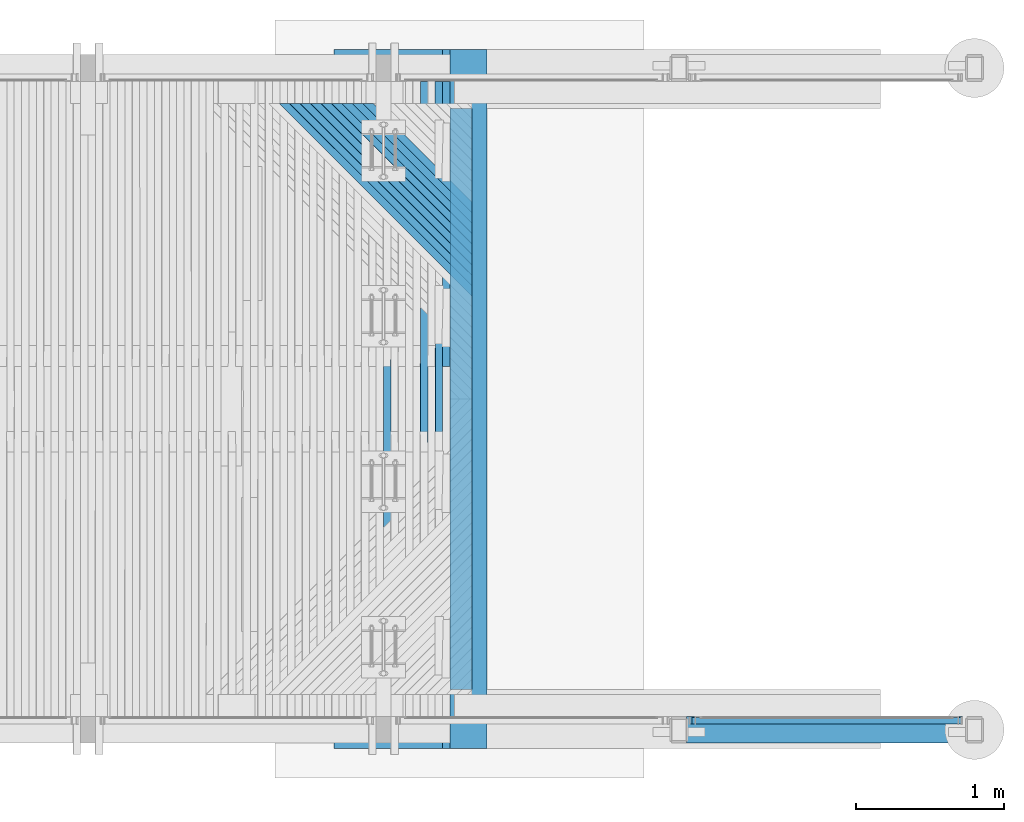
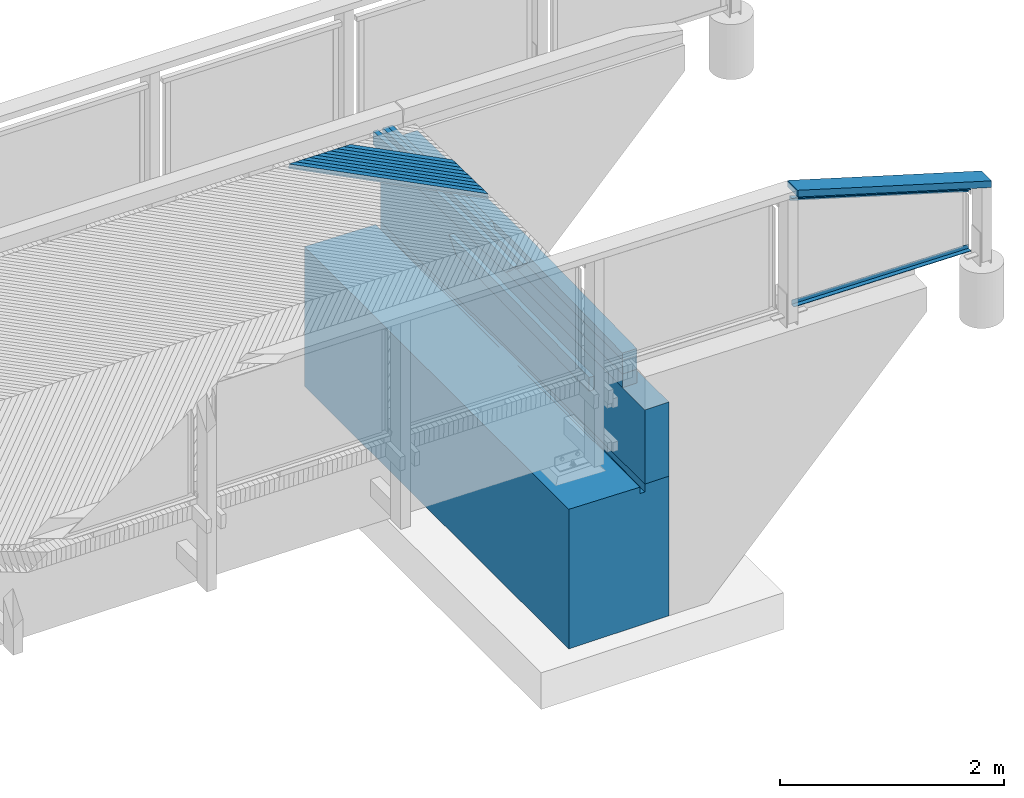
# One storey, part 47 of 65: 21 beams.
"""IFC2X3 building model written with IfcOpenShell, lengths in millimetres."""

import ifcopenshell
import ifcopenshell.guid

model = None  # the IFC model being written
_history = None  # IfcOwnerHistory: only IFC2X3 demands one
_inside = {}  # id of a spatial element -> (the spatial element, [elements in it])
_under = {}  # id of a project, library or spatial element -> (it, [spatial elements below it])
_declared = {}  # id of a project -> (the project, [libraries it declares])
_typed = {}  # id of a type object -> (the type object, [elements of that type])
_made_of = {}  # id of a material, layer set ... -> (it, [elements and type objects made of it])


def new_model(schema):
    """Start an empty IFC model of exactly this schema.

    Asked for "IFC4X3", IfcOpenShell would pick the latest addendum, in which some entities
    have other attributes; the version numbers below select the first issue.
    IFC2X3 requires an IfcOwnerHistory on every rooted entity: one is made here for all.
    """
    global model, _history
    if schema == "IFC4X3":
        model = ifcopenshell.file(schema_version=(4, 3, 0, 0))
    else:
        model = ifcopenshell.file(schema=schema)
    _inside.clear()
    _under.clear()
    _declared.clear()
    _typed.clear()
    _made_of.clear()
    _history = None
    if model.schema == "IFC2X3":
        org = make("IfcOrganization", Name="unknown")
        user = make(
            "IfcPersonAndOrganization",
            ThePerson=make("IfcPerson", FamilyName="unknown"),
            TheOrganization=org,
        )
        app = make(
            "IfcApplication",
            ApplicationDeveloper=org,
            Version="unknown",
            ApplicationFullName="unknown",
            ApplicationIdentifier="unknown",
        )
        _history = make(
            "IfcOwnerHistory",
            OwningUser=user,
            OwningApplication=app,
            ChangeAction="ADDED",
            CreationDate=0,
        )
    return model


def make(cls, **values):
    """One entity of the class cls with the attributes given. An attribute that is None is left unset."""
    return model.create_entity(
        cls, **{name: value for name, value in values.items() if value is not None}
    )


def rooted(cls, **values):
    """An entity with a GlobalId (a new one), such as an element, a storey or a relation."""
    return make(cls, GlobalId=ifcopenshell.guid.new(), OwnerHistory=_history, **values)


def si_unit(unit_type, name, prefix=None):
    """IfcSIUnit, for example si_unit("LENGTHUNIT", "METRE", prefix="MILLI")."""
    return make("IfcSIUnit", UnitType=unit_type, Prefix=prefix, Name=name)


def assignment(units):
    """IfcUnitAssignment: the units of a project."""
    return None if units is None else make("IfcUnitAssignment", Units=units)


def point(xyz):
    """IfcCartesianPoint."""
    return None if xyz is None else make("IfcCartesianPoint", Coordinates=xyz)


def direction(xyz):
    """IfcDirection."""
    return None if xyz is None else make("IfcDirection", DirectionRatios=xyz)


def frame(location, z_axis=None, x_axis=None):
    """IfcAxis2Placement3D, a coordinate frame: its origin and axes. An axis left out is left unset."""
    return make(
        "IfcAxis2Placement3D",
        Location=point(location),
        Axis=direction(z_axis),
        RefDirection=direction(x_axis),
    )


def origin_with_axes():
    """The frame at (0, 0, 0) with the z axis (0, 0, 1) and the x axis (1, 0, 0) written out."""
    return frame((0.0, 0.0, 0.0), z_axis=(0.0, 0.0, 1.0), x_axis=(1.0, 0.0, 0.0))


def place(relative_to, where):
    """IfcLocalPlacement: puts the frame where relative to a parent placement (None: the world)."""
    return make(
        "IfcLocalPlacement", PlacementRelTo=relative_to, RelativePlacement=where
    )


def context(
    kind, dimensions, precision=None, world=None, true_north=None, identifier=None
):
    """IfcGeometricRepresentationContext, for example the 3D "Model" context."""
    return make(
        "IfcGeometricRepresentationContext",
        ContextIdentifier=identifier,
        ContextType=kind,
        CoordinateSpaceDimension=dimensions,
        Precision=precision,
        WorldCoordinateSystem=world,
        TrueNorth=true_north,
    )


def subcontext(parent, identifier, kind, view, scale=None):
    """IfcGeometricRepresentationSubContext, for example "Body" below "Model"."""
    return make(
        "IfcGeometricRepresentationSubContext",
        ContextIdentifier=identifier,
        ContextType=kind,
        ParentContext=parent,
        TargetScale=scale,
        TargetView=view,
    )


def project(units=None, contexts=None):
    """IfcProject with its units and contexts."""
    return rooted(
        "IfcProject",
        Name="project",
        RepresentationContexts=contexts,
        UnitsInContext=assignment(units),
    )


def spatial(cls, under=None, at=None, **own):
    """A site, building, storey or space (cls), placed at a placement, below another one or the project."""
    s = rooted(cls, ObjectPlacement=at, **own)
    if under is not None:
        _under.setdefault(under.id(), (under, []))[1].append(s)
    return s


def faces_of(points, faces, orient=None, outer=None):
    """IfcFace entities. A face is a list of loops; a loop is a list of indices into points, from 0.

    orient and outer hold one flag for each loop. By default every Orientation is true, the
    first loop of a face is its IfcFaceOuterBound and the others are IfcFaceBound.
    """
    made = []
    for i, loops in enumerate(faces):
        bounds = []
        for j, loop in enumerate(loops):
            is_outer = j == 0 if outer is None else outer[i][j]
            bounds.append(
                make(
                    "IfcFaceOuterBound" if is_outer else "IfcFaceBound",
                    Bound=make("IfcPolyLoop", Polygon=[points[k] for k in loop]),
                    Orientation=True if orient is None else orient[i][j],
                )
            )
        made.append(make("IfcFace", Bounds=bounds))
    return made


def faceted_brep(points, faces, orient=None, outer=None, voids=None):
    """IfcFacetedBrep: a solid bounded by flat faces; with voids (closed shells), ...WithVoids."""
    shared = [point(p) for p in points]
    hull = make("IfcClosedShell", CfsFaces=faces_of(shared, faces, orient, outer))
    if voids is None:
        return make("IfcFacetedBrep", Outer=hull)
    return make(
        "IfcFacetedBrepWithVoids",
        Outer=hull,
        Voids=[
            make(cls, CfsFaces=faces_of(shared, fs, o, b)) for cls, fs, o, b in voids
        ],
    )


def shape(context_of_items, identifier, shape_type, items):
    """IfcShapeRepresentation: the items that make up one representation, for example the "Body"."""
    return make(
        "IfcShapeRepresentation",
        ContextOfItems=context_of_items,
        RepresentationIdentifier=identifier,
        RepresentationType=shape_type,
        Items=items,
    )


def material(Name=None, Category=None):
    """IfcMaterial."""
    return make("IfcMaterial", Name=Name, Category=Category)


def made_of(thing, what):
    """Note that an element or type object is made of a material, layer set ...; save() writes the relation."""
    if what is not None:
        _made_of.setdefault(what.id(), (what, []))[1].append(thing)
    return thing


def type_object(cls, material=None, **own):
    """A type object (cls), such as IfcWallType, which elements share."""
    return made_of(rooted(cls, **own), material)


def element(
    cls,
    number,
    at=None,
    inside=None,
    cuts=None,
    type_object=None,
    material=None,
    context=None,
    identifier="Body",
    shape_type=None,
    held_by="IfcProductDefinitionShape",
    body=None,
    shapes=None,
    **own,
):
    """One element of the class cls, such as IfcWall. Its Tag is "e" and its number.

    at: its placement. inside: the storey or other place that contains it. cuts: it is an
    opening in that element (IfcRelVoidsElement). A single representation is given by context,
    identifier, shape_type and body (its items); several are given by shapes. held_by: the class
    of the entity that holds the representations. save() writes the other relations.
    """
    e = rooted(cls, Tag="e%d" % number, ObjectPlacement=at, **own)
    if body is not None:
        shapes = [shape(context, identifier, shape_type, body)]
    if shapes is not None:
        e.Representation = make(held_by, Representations=shapes)
    if inside is not None:
        _inside.setdefault(inside.id(), (inside, []))[1].append(e)
    if cuts is not None:
        rooted(
            "IfcRelVoidsElement", RelatingBuildingElement=cuts, RelatedOpeningElement=e
        )
    if type_object is not None:
        _typed.setdefault(type_object.id(), (type_object, []))[1].append(e)
    return made_of(e, material)


def aggregate(whole, parts):
    """IfcRelAggregates: a whole, such as a stair, and the parts it consists of."""
    return rooted("IfcRelAggregates", RelatingObject=whole, RelatedObjects=parts)


def save(model, path):
    """Write the relations noted so far, then the file.

    IfcRelAggregates (storeys below a building ...), IfcRelContainedInSpatialStructure (elements
    in a storey), IfcRelDefinesByType, IfcRelAssociatesMaterial and IfcRelDeclares: one each for
    every whole, place, type object, material and project.
    """
    for whole, parts in _under.values():
        aggregate(whole, parts)
    for where, things in _inside.values():
        rooted(
            "IfcRelContainedInSpatialStructure",
            RelatedElements=things,
            RelatingStructure=where,
        )
    for kind, things in _typed.values():
        rooted("IfcRelDefinesByType", RelatedObjects=things, RelatingType=kind)
    for what, things in _made_of.values():
        rooted("IfcRelAssociatesMaterial", RelatedObjects=things, RelatingMaterial=what)
    for by, libraries in _declared.values():
        rooted("IfcRelDeclares", RelatingContext=by, RelatedDefinitions=libraries)
    model.write(path)


model = new_model("IFC2X3")

# Units and contexts
model_context = context("Model", 3, precision=1e-05, world=origin_with_axes())
body_context = subcontext(model_context, "Body", "Model", "MODEL_VIEW")
ifc_project = project(units=[si_unit("LENGTHUNIT", "METRE", prefix="MILLI"), si_unit("AREAUNIT", "SQUARE_METRE"), si_unit("VOLUMEUNIT", "CUBIC_METRE"), si_unit("MASSUNIT", "GRAM", prefix="KILO"), si_unit("TIMEUNIT", "SECOND"), si_unit("PLANEANGLEUNIT", "RADIAN"), si_unit("SOLIDANGLEUNIT", "STERADIAN"), si_unit("THERMODYNAMICTEMPERATUREUNIT", "DEGREE_CELSIUS"), si_unit("LUMINOUSINTENSITYUNIT", "LUMEN")], contexts=[model_context])

# Site, building, storey
site_placement = place(None, origin_with_axes())
site = spatial("IfcSite", under=ifc_project, at=site_placement, Name="Undefined", CompositionType="ELEMENT")
building_placement = place(site_placement, origin_with_axes())
building = spatial("IfcBuilding", under=site, at=building_placement, Name="Undefined", CompositionType="ELEMENT")
storey_placement = place(building_placement, origin_with_axes())
storey = spatial("IfcBuildingStorey", under=building, at=storey_placement, Name="Undefined", CompositionType="ELEMENT", Elevation=0.0)

# Beams
ifc_material_1 = material(Name="TIMBER/Timber_Undefined")
beam_type_1 = type_object("IfcBeamType", Name="150*150", PredefinedType="NOTDEFINED")
beam_1_placement = place(storey_placement, frame((16525.0, 20399.9992755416, 3109.00000000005), z_axis=(1.0, 0.0, 0.0), x_axis=(0.0, 1.0, 0.0)))
element("IfcBeam", 1, at=beam_1_placement, inside=storey, type_object=beam_type_1, material=ifc_material_1, Name="BEAM", ObjectType="150*150", context=body_context, shape_type="Brep", body=[
    faceted_brep([(0.0, -75.0000000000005, 75.0), (0.0, -75.0000000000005, -75.0), (3930.0, -75.0, -75.0), (3930.0, -75.0, 75.0), (3930.0, 3.17681141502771, -75.0), (3930.0, 0.558028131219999, 75.0), (1965.00070282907, 39.8541855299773, 75.0), (0.0, 0.558000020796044, 75.0), (0.0, 3.1767833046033, -75.0), (1965.00070282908, 42.4729688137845, -75.0)], [[[0, 1, 2, 3]], [[3, 2, 4, 5]], [[0, 3, 5, 6, 7]], [[1, 0, 7, 8]], [[4, 2, 1, 8, 9]], [[5, 4, 9, 6]], [[8, 7, 6, 9]]]),
])
for number, where, z_axis, x_axis, name in (
    (2, (16525.0, 20399.9992755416, 2959.00000000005), (1.0, 0.0, 0.0), (0.0, 1.0, 0.0), "BEAM"),
    (3, (16525.0, 20399.9992755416, 2809.00000000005), (1.0, 0.0, 0.0), (0.0, 1.0, 0.0), "BEAM"),
):
    element("IfcBeam", number, at=place(storey_placement, frame(where, z_axis=z_axis, x_axis=x_axis)), inside=storey, type_object=beam_type_1, material=ifc_material_1, Name=name, ObjectType="150*150", context=body_context, shape_type="Brep", body=[
        faceted_brep([(3.63797880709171e-12, 75.0000000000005, -75.0), (3.63797880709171e-12, 75.0000000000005, 75.0), (3930.0, 75.0, 75.0), (3930.0, 75.0, -75.0), (0.0, -75.0000000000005, 75.0), (3930.0, -75.0, 75.0), (0.0, -75.0000000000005, -75.0), (3930.0, -75.0, -75.0)], [[[0, 1, 2, 3]], [[1, 4, 5, 2]], [[4, 6, 7, 5]], [[6, 0, 3, 7]], [[5, 7, 3, 2]], [[6, 4, 1, 0]]]),
    ])
ifc_material_2 = material(Name="CONCRETE/Concrete_Undefined")
beam_type_2 = type_object("IfcBeamType", Name="810*250", PredefinedType="NOTDEFINED")
beam_2_placement = place(storey_placement, frame((16575.0, 20000.0, 2329.0), z_axis=(0.0, 0.0, 1.0), x_axis=(0.0, 1.0, 0.0)))
element("IfcBeam", 4, at=beam_2_placement, inside=storey, type_object=beam_type_2, material=ifc_material_2, Name="OTSAMUURI", ObjectType="810*250", context=body_context, shape_type="Brep", body=[
    faceted_brep([(0.0, 125.0, -405.0), (0.0, 125.0, 405.0), (4730.0, 125.0, 405.0), (4730.0, 125.0, -405.0), (0.0, -125.0, 405.0), (4730.0, -125.0, 405.0), (0.0, -125.0, -405.0), (4730.0, -125.0, -405.0)], [[[0, 1, 2, 3]], [[1, 4, 5, 2]], [[4, 6, 7, 5]], [[6, 0, 3, 7]], [[5, 7, 3, 2]], [[6, 4, 1, 0]]]),
])
beam_type_3 = type_object("IfcBeamType", Name="1524*1035", PredefinedType="NOTDEFINED")
beam_3_placement = place(storey_placement, frame((16182.5, 20000.0, 1162.0), z_axis=(0.0, 0.0, 1.0), x_axis=(0.0, 1.0, 0.0)))
element("IfcBeam", 5, at=beam_3_placement, inside=storey, type_object=beam_type_3, material=ifc_material_2, Name="LAAKERIPALKKI", ObjectType="1524*1035", context=body_context, shape_type="Brep", body=[
    faceted_brep([(4730.0, -217.5, 747.0), (2367.30822656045, -217.5, 747.0), (2367.55223388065, -217.5, 737.442575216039), (4730.0, -217.5, 676.997414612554), (2367.55223388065, -267.5, 737.442575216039), (4730.0, -267.5, 676.997414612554), (4730.0, -267.5, 762.0), (2366.92526672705, -267.5, 762.0), (4730.0, 517.5, -762.0), (0.0, 517.5, -762.0), (0.0, 517.5, 762.0), (4730.0, 517.5, 762.0), (0.0, -517.5, -762.0), (4730.0, -517.5, -762.0), (0.0, -517.5, 762.0), (4730.0, -517.5, 762.0), (2363.07473327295, -267.5, 762.0), (0.0, -267.5, 762.0), (0.0, -267.5, 676.997414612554), (0.0, -217.5, 676.997414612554), (0.0, -217.5, 747.0), (2362.45109111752, -267.5, 737.312339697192), (2362.45109111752, -217.5, 737.312339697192), (2362.69177343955, -217.5, 747.0)], [[[0, 1, 2, 3]], [[3, 2, 4, 5]], [[6, 5, 4, 7]], [[8, 9, 10, 11]], [[12, 9, 8, 13]], [[14, 12, 13, 15]], [[16, 17, 14, 15, 6, 7]], [[9, 12, 14, 17, 18, 19, 20, 10]], [[16, 7, 4, 21, 18, 17]], [[18, 21, 4, 2, 22, 19]], [[20, 19, 22, 2, 1, 23]], [[11, 10, 20, 23, 1, 0]], [[15, 13, 8, 11, 0, 3, 5, 6]]]),
])
ifc_material_3 = material(Name="STEEL/S235JR")
beam_type_4 = type_object("IfcBeamType", Name="L50*5", PredefinedType="NOTDEFINED")
beam_4_placement = place(storey_placement, frame((19932.3725338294, 20190.0099999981, 3179.70755372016), z_axis=(0.0, -1.0, 0.0), x_axis=(-0.999888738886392, 0.0, 0.0149167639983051)))
element("IfcBeam", 6, at=beam_4_placement, inside=storey, type_object=beam_type_4, material=ifc_material_3, Name="BEAM", ObjectType="L50*5", context=body_context, shape_type="Brep", body=[
    faceted_brep([(19.5026467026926, 24.9999999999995, -25.0), (19.5026467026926, 24.9999999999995, 25.0), (1844.70266873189, 24.9999999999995, 25.0), (1844.70266873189, 24.9999999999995, -25.0), (19.5772388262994, 20.0, 25.0), (1844.77726085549, 19.9999999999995, 25.0), (19.5772388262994, 20.0, -20.0), (1844.77726085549, 19.9999999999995, -20.0), (20.2485678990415, -25.0000000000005, -20.0), (1845.44858992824, -25.0, -20.0), (20.2485678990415, -25.0000000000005, -25.0), (1845.44858992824, -25.0, -25.0)], [[[0, 1, 2, 3]], [[1, 4, 5, 2]], [[4, 6, 7, 5]], [[6, 8, 9, 7]], [[8, 10, 11, 9]], [[10, 0, 3, 11]], [[5, 7, 9, 11, 3, 2]], [[10, 8, 6, 4, 1, 0]]]),
])
beam_5_placement = place(storey_placement, frame((18073.0165410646, 20190.0100000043, 4349.67321763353), z_axis=(0.0, -1.0, 0.0), x_axis=(0.958216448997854, 0.0, -0.286044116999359)))
element("IfcBeam", 7, at=beam_5_placement, inside=storey, type_object=beam_type_4, material=ifc_material_3, Name="BEAM", ObjectType="L50*5", context=body_context, shape_type="Brep", body=[
    faceted_brep([(-13.2235825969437, 25.0, -25.0), (-13.2235825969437, 25.0, 25.0), (1917.44646969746, 25.0, 25.0), (1917.44646969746, 25.0, -25.0), (-11.7309964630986, 20.0, 25.0), (1918.9390558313, 19.9999999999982, 25.0), (-11.7309964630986, 20.0, -20.0), (1918.9390558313, 19.9999999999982, -20.0), (1.70227874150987, -25.0, -20.0), (1932.37233103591, -25.0000000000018, -20.0), (1.70227874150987, -25.0, -25.0), (1932.37233103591, -25.0000000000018, -25.0)], [[[0, 1, 2, 3]], [[1, 4, 5, 2]], [[4, 6, 7, 5]], [[6, 8, 9, 7]], [[8, 10, 11, 9]], [[10, 0, 3, 11]], [[5, 7, 9, 11, 3, 2]], [[10, 8, 6, 4, 1, 0]]]),
])
beam_type_5 = type_object("IfcBeamType", Name="180*70", PredefinedType="NOTDEFINED")
beam_6_placement = place(storey_placement, frame((18039.9342024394, 20125.0099640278, 4517.05500293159), z_axis=(0.0, -1.0, 0.0), x_axis=(0.958243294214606, 0.0, -0.285954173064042)))
element("IfcBeam", 8, at=beam_6_placement, inside=storey, type_object=beam_type_5, material=ifc_material_1, Name="YLÄJOHDE", ObjectType="180*70", context=body_context, shape_type="Brep", body=[
    faceted_brep([(41.6879268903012, -35.0699417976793, -90.0), (41.6879268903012, -35.0699417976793, 90.0), (20.9594530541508, -35.0351891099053, 90.0), (20.9594530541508, -35.0351891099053, -90.0), (41.8028913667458, 34.9299637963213, 90.0), (0.0598773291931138, 34.9999487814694, 90.0), (41.8028913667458, 34.9299637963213, -90.0), (0.0598773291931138, 34.9999487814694, -90.0), (83.5459100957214, 34.8628353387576, -90.0), (83.4357358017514, -35.1370779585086, -90.0), (83.4357358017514, -35.1370779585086, 90.0), (83.5459100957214, 34.8628353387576, 90.0), (125.288933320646, 34.7985634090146, 90.0), (125.288933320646, 34.7985634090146, -90.0), (125.183549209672, -35.2013572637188, -90.0), (125.183549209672, -35.2013572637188, 90.0), (166.931366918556, -35.2627797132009, 90.0), (167.031960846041, 34.7371480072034, 90.0), (167.031960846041, 34.7371480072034, -90.0), (166.931366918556, -35.2627797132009, -90.0), (208.679188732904, -35.3213453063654, -90.0), (208.679188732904, -35.3213453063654, 90.0), (208.774992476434, 34.6785891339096, 90.0), (208.774992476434, 34.6785891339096, -90.0), (250.518028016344, 34.6228867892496, -90.0), (250.42701445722, -35.3770540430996, -90.0), (250.42701445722, -35.3770540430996, 90.0), (250.518028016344, 34.6228867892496, 90.0), (292.261067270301, 34.5700409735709, 90.0), (292.261067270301, 34.5700409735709, -90.0), (292.174843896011, -35.4299059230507, -90.0), (292.174843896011, -35.4299059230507, 90.0), (333.922676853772, -35.4799009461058, 90.0), (334.004110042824, 34.52005168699, 90.0), (334.004110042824, 34.52005168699, -90.0), (333.922676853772, -35.4799009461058, -90.0), (375.670513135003, -35.5270391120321, -90.0), (375.670513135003, -35.5270391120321, 90.0), (375.747156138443, 34.4729189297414, 90.0), (375.747156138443, 34.4729189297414, -90.0), (417.490205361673, 34.4286427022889, -90.0), (417.418352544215, -35.5713204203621, -90.0), (417.418352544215, -35.5713204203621, 90.0), (417.490205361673, 34.4286427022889, 90.0), (459.233257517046, 34.3872230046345, 90.0), (459.233257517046, 34.3872230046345, -90.0), (459.166194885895, -35.6127448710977, -90.0), (459.166194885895, -35.6127448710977, 90.0), (500.914039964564, -35.6513124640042, 90.0), (500.97631240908, 34.3486598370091, 90.0), (500.97631240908, 34.3486598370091, -90.0), (500.914039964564, -35.6513124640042, -90.0), (542.661887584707, -35.6870231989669, -90.0), (542.661887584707, -35.6870231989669, 90.0), (542.719369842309, 34.3129531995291, 90.0), (542.719369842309, 34.3129531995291, -90.0), (584.462429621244, 34.2801030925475, -90.0), (584.40973755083, -35.7198770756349, -90.0), (584.40973755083, -35.7198770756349, 90.0), (584.462429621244, 34.2801030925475, 90.0), (626.205491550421, 34.2501095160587, 90.0), (626.205491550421, 34.2501095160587, -90.0), (626.157589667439, -35.7498740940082, -90.0), (626.157589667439, -35.7498740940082, 90.0), (667.905443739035, -35.7770142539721, 90.0), (667.948555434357, 34.2229724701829, 90.0), (667.948555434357, 34.2229724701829, -90.0), (667.905443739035, -35.7770142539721, -90.0), (709.653299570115, -35.801297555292, -90.0), (709.653299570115, -35.801297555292, 90.0), (709.691621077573, 34.1986919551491, 90.0), (709.691621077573, 34.1986919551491, -90.0), (751.434688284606, 34.1772679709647, -90.0), (751.401156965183, -35.8227239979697, -90.0), (751.401156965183, -35.8227239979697, 90.0), (751.434688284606, 34.1772679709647, 90.0), (793.177756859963, 34.1587005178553, 90.0), (793.177756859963, 34.1587005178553, -90.0), (793.149015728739, -35.8412935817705, -90.0), (793.149015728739, -35.8412935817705, 90.0), (834.896875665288, -35.8570063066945, 90.0), (834.920826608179, 34.1429895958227, 90.0), (834.920826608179, 34.1429895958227, -90.0), (834.896875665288, -35.8570063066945, -90.0), (876.644736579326, -35.8698621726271, -90.0), (876.644736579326, -35.8698621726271, 90.0), (876.663897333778, 34.1301352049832, 90.0), (876.663897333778, 34.1301352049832, -90.0), (918.406968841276, 34.1201373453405, -90.0), (918.392598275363, -35.8798611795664, -90.0), (918.392598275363, -35.8798611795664, 90.0), (918.406968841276, 34.1201373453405, 90.0), (960.150040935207, 34.112996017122, 90.0), (960.150040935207, 34.112996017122, -90.0), (960.140460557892, -35.8870033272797, -90.0), (960.140460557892, -35.8870033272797, 90.0), (1001.88832323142, -35.8912886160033, 90.0), (1001.89311342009, 34.1087112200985, 90.0), (1001.89311342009, 34.1087112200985, -90.0), (1001.88832323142, -35.8912886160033, -90.0), (1043.63618610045, -35.8927170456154, -90.0), (1043.63618610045, -35.8927170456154, 90.0), (1043.63618610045, 34.1072829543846, 90.0), (1043.63618610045, 34.1072829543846, -90.0), (1085.3792587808, 34.1087112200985, -90.0), (1085.38404896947, -35.8912886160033, -90.0), (1085.38404896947, -35.8912886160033, 90.0), (1085.3792587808, 34.1087112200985, 90.0), (1127.12233126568, 34.112996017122, 90.0), (1127.12233126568, 34.112996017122, -90.0), (1127.131911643, -35.8870033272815, -90.0), (1127.131911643, -35.8870033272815, 90.0), (1168.87977392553, -35.8798611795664, 90.0), (1168.86540335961, 34.1201373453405, 90.0), (1168.86540335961, 34.1201373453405, -90.0), (1168.87977392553, -35.8798611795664, -90.0), (1210.62763562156, -35.8698621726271, -90.0), (1210.62763562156, -35.8698621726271, 90.0), (1210.60847486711, 34.130135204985, 90.0), (1210.60847486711, 34.130135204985, -90.0), (1252.35154559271, 34.1429895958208, -90.0), (1252.3754965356, -35.8570063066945, -90.0), (1252.3754965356, -35.8570063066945, 90.0), (1252.35154559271, 34.1429895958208, 90.0), (1294.09461534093, 34.1587005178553, 90.0), (1294.09461534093, 34.1587005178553, -90.0), (1294.12335647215, -35.8412935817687, -90.0), (1294.12335647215, -35.8412935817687, 90.0), (1335.87121523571, -35.8227239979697, 90.0), (1335.83768391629, 34.1772679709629, 90.0), (1335.83768391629, 34.1772679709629, -90.0), (1335.87121523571, -35.8227239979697, -90.0), (1377.61907263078, -35.801297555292, -90.0), (1377.61907263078, -35.801297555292, 90.0), (1377.58075112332, 34.1986919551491, 90.0), (1377.58075112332, 34.1986919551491, -90.0), (1419.32381676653, 34.222972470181, -90.0), (1419.36692846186, -35.7770142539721, -90.0), (1419.36692846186, -35.7770142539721, 90.0), (1419.32381676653, 34.222972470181, 90.0), (1461.06688065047, 34.2501095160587, 90.0), (1461.06688065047, 34.2501095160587, -90.0), (1461.11478253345, -35.74987409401, -90.0), (1461.11478253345, -35.74987409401, 90.0), (1502.86263465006, -35.7198770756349, 90.0), (1502.80994257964, 34.2801030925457, 90.0), (1502.80994257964, 34.2801030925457, -90.0), (1502.86263465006, -35.7198770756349, -90.0), (1544.61048461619, -35.6870231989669, -90.0), (1544.61048461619, -35.6870231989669, 90.0), (1544.55300235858, 34.3129531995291, 90.0), (1544.55300235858, 34.3129531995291, -90.0), (1586.29605979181, 34.3486598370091, -90.0), (1586.35833223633, -35.6513124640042, -90.0), (1586.35833223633, -35.6513124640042, 90.0), (1586.29605979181, 34.3486598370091, 90.0), (1628.03911468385, 34.3872230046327, 90.0), (1628.03911468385, 34.3872230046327, -90.0), (1628.10617731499, -35.6127448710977, -90.0), (1628.10617731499, -35.6127448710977, 90.0), (1669.85401965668, -35.5713204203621, 90.0), (1669.78216683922, 34.4286427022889, 90.0), (1669.78216683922, 34.4286427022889, -90.0), (1669.85401965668, -35.5713204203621, -90.0), (1711.60185906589, -35.5270391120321, -90.0), (1711.60185906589, -35.5270391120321, 90.0), (1711.52521606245, 34.4729189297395, 90.0), (1711.52521606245, 34.4729189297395, -90.0), (1753.26826215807, 34.52005168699, -90.0), (1753.34969534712, -35.4799009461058, -90.0), (1753.34969534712, -35.4799009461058, 90.0), (1753.26826215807, 34.52005168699, 90.0), (1795.01130493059, 34.5700409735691, 90.0), (1795.01130493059, 34.5700409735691, -90.0), (1795.09752830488, -35.4299059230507, -90.0), (1795.09752830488, -35.4299059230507, 90.0), (1836.84535774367, -35.3770540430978, 90.0), (1836.75434418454, 34.6228867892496, 90.0), (1836.75434418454, 34.6228867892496, -90.0), (1836.84535774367, -35.3770540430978, -90.0), (1878.59318346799, -35.3213453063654, -90.0), (1878.59318346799, -35.3213453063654, 90.0), (1878.49737972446, 34.6785891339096, 90.0), (1878.49737972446, 34.6785891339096, -90.0), (1920.24041135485, 34.7371480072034, -90.0), (1920.34100528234, -35.2627797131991, -90.0), (1920.34100528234, -35.2627797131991, 90.0), (1920.24041135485, 34.7371480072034, 90.0), (1961.98343888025, 34.7985634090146, 90.0), (1961.98343888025, 34.7985634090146, -90.0), (1962.08882299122, -35.2013572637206, -90.0), (1962.08882299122, -35.2013572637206, 90.0), (2003.83663639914, -35.1370779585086, 90.0), (2003.72646210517, 34.8628353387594, 90.0), (2003.72646210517, 34.8628353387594, -90.0), (2003.83663639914, -35.1370779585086, -90.0), (2045.58444531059, -35.0699417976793, 90.0), (2045.58444531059, -35.0699417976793, -90.0), (2087.33224953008, -34.9999487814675, -90.0), (2087.33224953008, -34.9999487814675, 90.0), (2045.46948083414, 34.9299637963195, 90.0), (2045.46948083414, 34.9299637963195, -90.0), (2087.2124948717, 34.9999487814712, -90.0), (2108.09074495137, -34.9637252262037, -90.0), (2108.09074495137, -34.9637252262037, 90.0), (2087.2124948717, 34.9999487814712, 90.0)], [[[0, 1, 2, 3]], [[1, 4, 5, 2]], [[4, 6, 7, 5]], [[2, 5, 7, 3]], [[6, 0, 3, 7]], [[0, 6, 8, 9]], [[1, 0, 9, 10]], [[4, 1, 10, 11]], [[6, 4, 11, 8]], [[8, 11, 12, 13]], [[9, 8, 13, 14]], [[10, 9, 14, 15]], [[11, 10, 15, 12]], [[12, 15, 16, 17]], [[13, 12, 17, 18]], [[14, 13, 18, 19]], [[15, 14, 19, 16]], [[16, 19, 20, 21]], [[17, 16, 21, 22]], [[18, 17, 22, 23]], [[19, 18, 23, 20]], [[20, 23, 24, 25]], [[21, 20, 25, 26]], [[22, 21, 26, 27]], [[23, 22, 27, 24]], [[24, 27, 28, 29]], [[25, 24, 29, 30]], [[26, 25, 30, 31]], [[27, 26, 31, 28]], [[28, 31, 32, 33]], [[29, 28, 33, 34]], [[30, 29, 34, 35]], [[31, 30, 35, 32]], [[32, 35, 36, 37]], [[33, 32, 37, 38]], [[34, 33, 38, 39]], [[35, 34, 39, 36]], [[36, 39, 40, 41]], [[37, 36, 41, 42]], [[38, 37, 42, 43]], [[39, 38, 43, 40]], [[40, 43, 44, 45]], [[41, 40, 45, 46]], [[42, 41, 46, 47]], [[43, 42, 47, 44]], [[44, 47, 48, 49]], [[45, 44, 49, 50]], [[46, 45, 50, 51]], [[47, 46, 51, 48]], [[48, 51, 52, 53]], [[49, 48, 53, 54]], [[50, 49, 54, 55]], [[51, 50, 55, 52]], [[52, 55, 56, 57]], [[53, 52, 57, 58]], [[54, 53, 58, 59]], [[55, 54, 59, 56]], [[56, 59, 60, 61]], [[57, 56, 61, 62]], [[58, 57, 62, 63]], [[59, 58, 63, 60]], [[60, 63, 64, 65]], [[61, 60, 65, 66]], [[62, 61, 66, 67]], [[63, 62, 67, 64]], [[64, 67, 68, 69]], [[65, 64, 69, 70]], [[66, 65, 70, 71]], [[67, 66, 71, 68]], [[68, 71, 72, 73]], [[69, 68, 73, 74]], [[70, 69, 74, 75]], [[71, 70, 75, 72]], [[72, 75, 76, 77]], [[73, 72, 77, 78]], [[74, 73, 78, 79]], [[75, 74, 79, 76]], [[76, 79, 80, 81]], [[77, 76, 81, 82]], [[78, 77, 82, 83]], [[79, 78, 83, 80]], [[80, 83, 84, 85]], [[81, 80, 85, 86]], [[82, 81, 86, 87]], [[83, 82, 87, 84]], [[84, 87, 88, 89]], [[85, 84, 89, 90]], [[86, 85, 90, 91]], [[87, 86, 91, 88]], [[88, 91, 92, 93]], [[89, 88, 93, 94]], [[90, 89, 94, 95]], [[91, 90, 95, 92]], [[92, 95, 96, 97]], [[93, 92, 97, 98]], [[94, 93, 98, 99]], [[95, 94, 99, 96]], [[96, 99, 100, 101]], [[97, 96, 101, 102]], [[98, 97, 102, 103]], [[99, 98, 103, 100]], [[100, 103, 104, 105]], [[101, 100, 105, 106]], [[102, 101, 106, 107]], [[103, 102, 107, 104]], [[104, 107, 108, 109]], [[105, 104, 109, 110]], [[106, 105, 110, 111]], [[107, 106, 111, 108]], [[108, 111, 112, 113]], [[109, 108, 113, 114]], [[110, 109, 114, 115]], [[111, 110, 115, 112]], [[112, 115, 116, 117]], [[113, 112, 117, 118]], [[114, 113, 118, 119]], [[115, 114, 119, 116]], [[116, 119, 120, 121]], [[117, 116, 121, 122]], [[118, 117, 122, 123]], [[119, 118, 123, 120]], [[120, 123, 124, 125]], [[121, 120, 125, 126]], [[122, 121, 126, 127]], [[123, 122, 127, 124]], [[124, 127, 128, 129]], [[125, 124, 129, 130]], [[126, 125, 130, 131]], [[127, 126, 131, 128]], [[128, 131, 132, 133]], [[129, 128, 133, 134]], [[130, 129, 134, 135]], [[131, 130, 135, 132]], [[132, 135, 136, 137]], [[133, 132, 137, 138]], [[134, 133, 138, 139]], [[135, 134, 139, 136]], [[136, 139, 140, 141]], [[137, 136, 141, 142]], [[138, 137, 142, 143]], [[139, 138, 143, 140]], [[140, 143, 144, 145]], [[141, 140, 145, 146]], [[142, 141, 146, 147]], [[143, 142, 147, 144]], [[144, 147, 148, 149]], [[145, 144, 149, 150]], [[146, 145, 150, 151]], [[147, 146, 151, 148]], [[148, 151, 152, 153]], [[149, 148, 153, 154]], [[150, 149, 154, 155]], [[151, 150, 155, 152]], [[152, 155, 156, 157]], [[153, 152, 157, 158]], [[154, 153, 158, 159]], [[155, 154, 159, 156]], [[156, 159, 160, 161]], [[157, 156, 161, 162]], [[158, 157, 162, 163]], [[159, 158, 163, 160]], [[160, 163, 164, 165]], [[161, 160, 165, 166]], [[162, 161, 166, 167]], [[163, 162, 167, 164]], [[164, 167, 168, 169]], [[165, 164, 169, 170]], [[166, 165, 170, 171]], [[167, 166, 171, 168]], [[168, 171, 172, 173]], [[169, 168, 173, 174]], [[170, 169, 174, 175]], [[171, 170, 175, 172]], [[172, 175, 176, 177]], [[173, 172, 177, 178]], [[174, 173, 178, 179]], [[175, 174, 179, 176]], [[176, 179, 180, 181]], [[177, 176, 181, 182]], [[178, 177, 182, 183]], [[179, 178, 183, 180]], [[180, 183, 184, 185]], [[181, 180, 185, 186]], [[182, 181, 186, 187]], [[183, 182, 187, 184]], [[184, 187, 188, 189]], [[185, 184, 189, 190]], [[186, 185, 190, 191]], [[187, 186, 191, 188]], [[188, 191, 192, 193]], [[189, 188, 193, 194]], [[190, 189, 194, 195]], [[191, 190, 195, 192]], [[196, 197, 198, 199]], [[192, 195, 197, 196]], [[193, 192, 196, 200]], [[194, 193, 200, 201]], [[195, 194, 201, 197]], [[197, 201, 202, 198]], [[198, 202, 203]], [[199, 198, 203, 204]], [[199, 204, 205]], [[200, 196, 199, 205]], [[201, 200, 205, 202]], [[204, 203, 202, 205]]]),
])
beam_type_6 = type_object("IfcBeamType", Name="50*50", PredefinedType="NOTDEFINED")
beam_7_placement = place(storey_placement, frame((17895.3052888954, 22365.4998996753, 3154.80495489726), z_axis=(0.706807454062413, 0.706981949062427, -0.0244897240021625), x_axis=(-0.707254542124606, 0.706948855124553, -0.00378535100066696)))
element("IfcBeam", 9, at=beam_7_placement, inside=storey, type_object=beam_type_6, material=ifc_material_1, Name="BEAM", ObjectType="50*50", context=body_context, shape_type="Brep", body=[
    faceted_brep([(2804.34067830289, -25.0, 25.0000000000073), (2854.34301907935, -24.9999999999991, -25.0000000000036), (2852.92877373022, 25.0000000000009, -25.0), (2802.92643296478, 25.0, 25.0), (1856.9571734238, 24.9999999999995, 25.0000000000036), (1855.92241106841, -25.0, 25.0000000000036), (1805.95401836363, -25.0000000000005, -24.9999999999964), (1806.98878071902, 24.9999999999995, -24.9999999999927)], [[[0, 1, 2, 3]], [[0, 3, 4, 5]], [[1, 0, 5, 6]], [[2, 1, 6, 7]], [[3, 2, 7, 4]], [[6, 5, 4, 7]]]),
])
beam_8_placement = place(storey_placement, frame((17824.5905388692, 22365.4998996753, 3155.96311087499), z_axis=(0.706810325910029, 0.706981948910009, -0.0244067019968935), x_axis=(-0.707254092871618, 0.706948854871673, -0.00386842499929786)))
element("IfcBeam", 10, at=beam_8_placement, inside=storey, type_object=beam_type_6, material=ifc_material_1, Name="BEAM", ObjectType="50*50", context=body_context, shape_type="Brep", body=[
    faceted_brep([(2804.34067830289, -25.0, 25.0000000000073), (2854.34301907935, -24.9999999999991, -25.0000000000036), (2852.92877373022, 25.0000000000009, -25.0), (2802.92643296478, 25.0, 25.0), (1756.96937511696, 25.0, 25.0000000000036), (1755.94291351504, -24.9999999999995, 25.0000000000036), (1705.97428604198, -25.0, -24.9999999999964), (1707.0007476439, 25.0, -24.9999999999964)], [[[0, 1, 2, 3]], [[0, 3, 4, 5]], [[1, 0, 5, 6]], [[2, 1, 6, 7]], [[3, 2, 7, 4]], [[6, 5, 4, 7]]]),
])
beam_9_placement = place(storey_placement, frame((17753.8756532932, 22365.4998996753, 3157.11296064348), z_axis=(0.706813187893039, 0.706981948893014, -0.0243236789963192), x_axis=(-0.707253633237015, 0.706948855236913, -0.0039515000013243)))
element("IfcBeam", 11, at=beam_9_placement, inside=storey, type_object=beam_type_6, material=ifc_material_1, Name="BEAM", ObjectType="50*50", context=body_context, shape_type="Brep", body=[
    faceted_brep([(2804.34067830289, -25.0, 25.0000000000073), (2854.34301907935, -24.9999999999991, -25.0000000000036), (2852.92877373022, 25.0000000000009, -25.0), (2802.92643296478, 25.0, 25.0), (1656.98128205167, 24.9999999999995, 25.0), (1655.96312129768, -25.0000000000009, 25.0000000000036), (1605.99425901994, -25.0000000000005, -25.0), (1607.01241977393, 24.9999999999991, -25.0)], [[[0, 1, 2, 3]], [[0, 3, 4, 5]], [[1, 0, 5, 6]], [[2, 1, 6, 7]], [[3, 2, 7, 4]], [[6, 5, 4, 7]]]),
])
beam_10_placement = place(storey_placement, frame((17683.1606331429, 22365.4998996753, 3158.25450418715), z_axis=(0.706816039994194, 0.706981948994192, -0.0242406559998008), x_axis=(-0.707253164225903, 0.706948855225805, -0.00403457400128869)))
element("IfcBeam", 12, at=beam_10_placement, inside=storey, type_object=beam_type_6, material=ifc_material_1, Name="BEAM", ObjectType="50*50", context=body_context, shape_type="Brep", body=[
    faceted_brep([(2804.34067830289, -25.0, 25.0000000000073), (2854.34301907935, -24.9999999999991, -25.0000000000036), (2852.92877373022, 25.0000000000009, -25.0), (2802.92643296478, 25.0, 25.0), (1556.99288906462, 25.0000000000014, 24.9999999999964), (1555.98302910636, -24.9999999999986, 24.9999999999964), (1506.01393205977, -24.9999999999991, -25.0), (1507.02379201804, 25.0000000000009, -25.0000000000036)], [[[0, 1, 2, 3]], [[0, 3, 4, 5]], [[1, 0, 5, 6]], [[2, 1, 6, 7]], [[3, 2, 7, 4]], [[6, 5, 4, 7]]]),
])
beam_11_placement = place(storey_placement, frame((17612.4454793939, 22365.4998996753, 3159.38774149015), z_axis=(0.706818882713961, 0.706981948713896, -0.0241576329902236), x_axis=(-0.70725268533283, 0.706948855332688, -0.00411764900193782)))
element("IfcBeam", 13, at=beam_11_placement, inside=storey, type_object=beam_type_6, material=ifc_material_1, Name="BEAM", ObjectType="50*50", context=body_context, shape_type="Brep", body=[
    faceted_brep([(2804.34067830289, -25.0, 25.0000000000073), (2854.34301907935, -24.9999999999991, -25.0000000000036), (2852.92877373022, 25.0000000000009, -25.0), (2802.92643296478, 25.0, 25.0), (1457.00419456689, 25.0000000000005, 25.0), (1456.00263545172, -24.9999999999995, 25.0000000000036), (1406.03330360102, -24.9999999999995, -24.9999999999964), (1407.03486271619, 25.0000000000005, -25.0)], [[[0, 1, 2, 3]], [[0, 3, 4, 5]], [[1, 0, 5, 6]], [[2, 1, 6, 7]], [[3, 2, 7, 4]], [[6, 5, 4, 7]]]),
])
beam_12_placement = place(storey_placement, frame((17541.730193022, 22365.4998996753, 3160.51267253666), z_axis=(0.706821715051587, 0.706981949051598, -0.0240746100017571), x_axis=(-0.707252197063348, 0.706948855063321, -0.00420072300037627)))
element("IfcBeam", 14, at=beam_12_placement, inside=storey, type_object=beam_type_6, material=ifc_material_1, Name="BEAM", ObjectType="50*50", context=body_context, shape_type="Brep", body=[
    faceted_brep([(2804.34067830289, -25.0, 25.0000000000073), (2854.34301907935, -24.9999999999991, -25.0000000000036), (2852.92877373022, 25.0000000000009, -25.0), (2802.92643296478, 25.0, 25.0), (1357.0151947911, 25.0000000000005, 25.0000000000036), (1356.02193646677, -24.9999999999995, 25.0000000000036), (1306.05236988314, -25.0000000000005, -24.9999999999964), (1307.04562820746, 25.0000000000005, -24.9999999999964)], [[[0, 1, 2, 3]], [[0, 3, 4, 5]], [[1, 0, 5, 6]], [[2, 1, 6, 7]], [[3, 2, 7, 4]], [[6, 5, 4, 7]]]),
])
beam_13_placement = place(storey_placement, frame((17471.0147750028, 22365.4998996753, 3161.6292973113), z_axis=(0.706824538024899, 0.706981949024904, -0.0239915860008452), x_axis=(-0.707251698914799, 0.706948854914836, -0.004283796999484)))
element("IfcBeam", 15, at=beam_13_placement, inside=storey, type_object=beam_type_6, material=ifc_material_1, Name="BEAM", ObjectType="50*50", context=body_context, shape_type="Brep", body=[
    faceted_brep([(2804.34067830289, -25.0, 25.0000000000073), (2854.34301907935, -24.9999999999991, -25.0000000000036), (2852.92877373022, 25.0000000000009, -25.0), (2802.92643296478, 25.0, 25.0), (1257.02588801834, 25.0000000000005, 25.0000000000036), (1256.04093053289, -25.0, 25.0), (1206.07112918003, -24.9999999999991, -24.9999999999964), (1207.05608666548, 25.0, -24.9999999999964)], [[[0, 1, 2, 3]], [[0, 3, 4, 5]], [[1, 0, 5, 6]], [[2, 1, 6, 7]], [[3, 2, 7, 4]], [[6, 5, 4, 7]]]),
])
beam_14_placement = place(storey_placement, frame((17400.2992263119, 22365.4998996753, 3162.73761579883), z_axis=(0.706827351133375, 0.706981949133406, -0.0239085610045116), x_axis=(-0.707251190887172, 0.70694885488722, -0.00436687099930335)))
element("IfcBeam", 16, at=beam_14_placement, inside=storey, type_object=beam_type_6, material=ifc_material_1, Name="BEAM", ObjectType="50*50", context=body_context, shape_type="Brep", body=[
    faceted_brep([(2804.34067830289, -25.0, 25.0000000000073), (2854.34301907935, -24.9999999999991, -25.0000000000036), (2852.92877373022, 25.0000000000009, -25.0), (2802.92643296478, 25.0, 25.0), (1157.03627142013, 25.0, 25.0000000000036), (1156.05961482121, -25.0, 25.0000000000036), (1106.08957869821, -24.9999999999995, -25.0), (1107.06623529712, 25.0000000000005, -25.0)], [[[0, 1, 2, 3]], [[0, 3, 4, 5]], [[1, 0, 5, 6]], [[2, 1, 6, 7]], [[3, 2, 7, 4]], [[6, 5, 4, 7]]]),
])
beam_15_placement = place(storey_placement, frame((17329.583547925, 22365.4998996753, 3163.83762798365), z_axis=(0.706830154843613, 0.706981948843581, -0.0238255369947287), x_axis=(-0.707250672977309, 0.706948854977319, -0.00444994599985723)))
element("IfcBeam", 17, at=beam_15_placement, inside=storey, type_object=beam_type_6, material=ifc_material_1, Name="BEAM", ObjectType="50*50", context=body_context, shape_type="Brep", body=[
    faceted_brep([(2804.34067830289, -25.0, 25.0000000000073), (2854.34301907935, -24.9999999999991, -25.0000000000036), (2852.92877373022, 25.0000000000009, -25.0), (2802.92643296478, 25.0, 25.0), (1057.04634223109, 25.0000000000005, 25.0), (1056.07798651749, -25.0, 25.0), (1006.10771559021, -25.0, -25.0), (1007.0760713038, 25.0000000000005, -24.9999999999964)], [[[0, 1, 2, 3]], [[0, 3, 4, 5]], [[1, 0, 5, 6]], [[2, 1, 6, 7]], [[3, 2, 7, 4]], [[6, 5, 4, 7]]]),
])
beam_type_7 = type_object("IfcBeamType", Name="150*50", PredefinedType="NOTDEFINED")
beam_16_placement = place(storey_placement, frame((16374.1835977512, 24513.4953923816, 3034.87917629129), z_axis=(0.013832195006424, 0.0199960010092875, 0.999704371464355), x_axis=(0.000276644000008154, -0.999800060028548, 0.0199940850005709)))
element("IfcBeam", 18, at=beam_16_placement, inside=storey, type_object=beam_type_7, material=ifc_material_1, Name="BEAM", ObjectType="150*50", context=body_context, shape_type="Brep", body=[
    faceted_brep([(-1.6778358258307e-07, -24.9999999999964, -74.9999999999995), (-1.6778358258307e-07, 25.0000000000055, -75.0), (2375.00494422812, 25.0000000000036, -75.0), (2375.00494447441, -24.9999999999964, -74.9999999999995), (1.67790858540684e-07, -24.9999999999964, 75.0000000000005), (1.67790858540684e-07, 25.0000000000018, 74.9999999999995), (2150.42515052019, 25.0000000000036, 74.9999999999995), (2510.59248715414, 25.0000000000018, 60.5875433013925), (2510.59248714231, -24.9999999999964, 60.5875430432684), (2150.42514405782, -24.9999999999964, 75.0000000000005)], [[[0, 1, 2, 3]], [[0, 4, 5, 1]], [[2, 1, 5, 6, 7]], [[3, 2, 7, 8]], [[4, 0, 3, 8, 9]], [[5, 4, 9, 6]], [[8, 7, 6, 9]]]),
])
beam_17_placement = place(storey_placement, frame((16424.1987277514, 24513.4953923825, 3034.17884260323), z_axis=(0.0139982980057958, 0.0199960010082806, 0.999702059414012), x_axis=(0.000279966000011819, -0.999800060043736, 0.0199940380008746)))
element("IfcBeam", 19, at=beam_17_placement, inside=storey, type_object=beam_type_7, material=ifc_material_1, Name="BEAM", ObjectType="150*50", context=body_context, shape_type="Brep", body=[
    faceted_brep([(-1.6778358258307e-07, -24.9999999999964, -74.9999999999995), (1.67790858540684e-07, -24.9999999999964, 75.0000000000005), (1.67790858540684e-07, 25.0000000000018, 74.9999999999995), (-1.6778358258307e-07, 25.0000000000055, -75.0), (1789.96936408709, 24.9999999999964, 75.0), (1928.42646328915, 24.9999999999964, -75.0), (1928.42646353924, -25.0, -75.0000000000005), (1789.96936433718, -25.0000000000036, 74.9999999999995)], [[[0, 1, 2, 3]], [[3, 2, 4, 5]], [[0, 3, 5, 6]], [[1, 0, 6, 7]], [[2, 1, 7, 4]], [[5, 4, 7, 6]]]),
])
beam_18_placement = place(storey_placement, frame((16274.1731307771, 24513.4953923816, 3036.26228302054), z_axis=(0.0136660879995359, 0.0199960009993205, 0.999706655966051), x_axis=(0.000273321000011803, -0.999800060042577, 0.0199941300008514)))
element("IfcBeam", 20, at=beam_18_placement, inside=storey, type_object=beam_type_7, material=ifc_material_1, Name="BEAM", ObjectType="150*50", context=body_context, shape_type="Brep", body=[
    faceted_brep([(-1.6778358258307e-07, -24.9999999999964, -74.9999999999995), (-1.6778358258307e-07, 25.0000000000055, -75.0), (2375.00494422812, 25.0000000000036, -75.0), (2375.00494447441, -24.9999999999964, -74.9999999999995), (1.67790858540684e-07, -24.9999999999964, 75.0000000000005), (1.67790858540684e-07, 25.0000000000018, 74.9999999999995), (2150.42515052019, 25.0000000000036, 74.9999999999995), (2510.59248715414, 25.0000000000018, 60.5875433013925), (2510.59248714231, -24.9999999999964, 60.5875430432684), (2150.42514405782, -24.9999999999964, 75.0000000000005)], [[[0, 1, 2, 3]], [[0, 4, 5, 1]], [[2, 1, 5, 6, 7]], [[3, 2, 7, 8]], [[4, 0, 3, 8, 9]], [[5, 4, 9, 6]], [[8, 7, 6, 9]]]),
])
beam_19_placement = place(storey_placement, frame((16024.1559547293, 20216.5046076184, 3039.64480689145), z_axis=(0.0133338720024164, -0.0199960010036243, 0.999711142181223), x_axis=(0.000266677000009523, 0.999800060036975, 0.0199942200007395)))
element("IfcBeam", 21, at=beam_19_placement, inside=storey, type_object=beam_type_7, material=ifc_material_1, Name="BEAM", ObjectType="150*50", context=body_context, shape_type="Brep", body=[
    faceted_brep([(-1.6778358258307e-07, -24.9999999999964, -74.9999999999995), (1.67790858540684e-07, -24.9999999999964, 75.0000000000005), (1.67790858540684e-07, 25.0000000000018, 74.9999999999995), (-1.6778358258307e-07, 25.0000000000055, -75.0), (2375.00494422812, 25.0000000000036, -75.0), (2375.00494447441, -24.9999999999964, -74.9999999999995), (2510.59248714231, -24.9999999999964, 60.5875430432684), (2150.42514405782, -24.9999999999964, 75.0000000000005), (2150.42515052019, 25.0000000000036, 74.9999999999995), (2510.59248715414, 25.0000000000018, 60.5875433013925)], [[[0, 1, 2, 3]], [[0, 3, 4, 5]], [[1, 0, 5, 6, 7]], [[2, 1, 7, 8]], [[4, 3, 2, 8, 9]], [[5, 4, 9, 6]], [[6, 9, 8, 7]]]),
])

save(model, "model.ifc")
